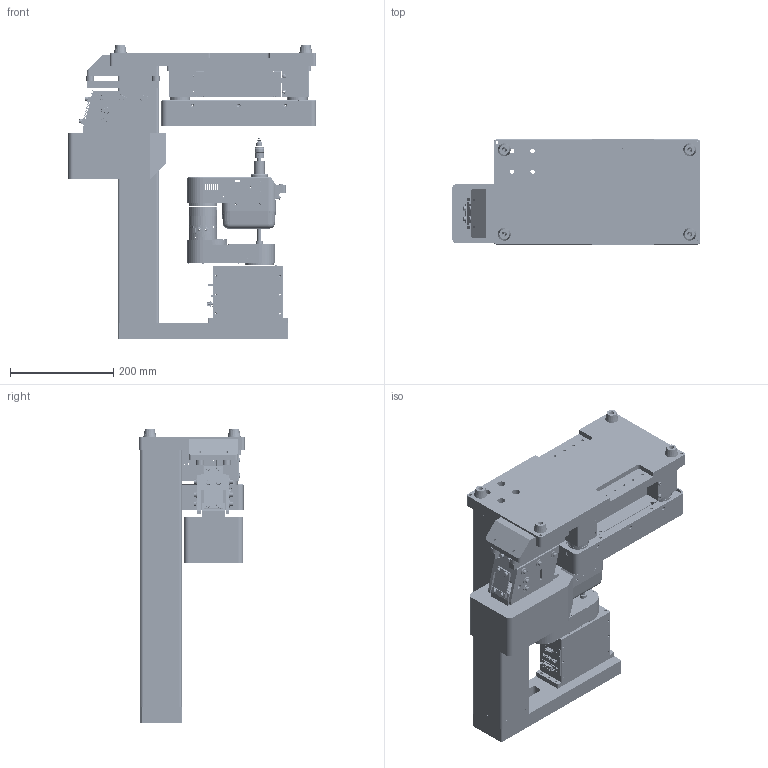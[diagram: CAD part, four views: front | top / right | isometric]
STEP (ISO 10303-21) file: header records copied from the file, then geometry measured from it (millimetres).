
FILE_DESCRIPTION (( 'STEP AP214' ), '1' );
FILE_NAME ('倒装模模型（不含特征）.STEP', '2026-06-11T15:01:37', ( '' ), ( '' ), 'SwSTEP 2.0', 'SolidWorks 2024', '' );
FILE_SCHEMA (( 'AUTOMOTIVE_DESIGN' ));
Length unit declared in the file: millimetre
Products named in the file (1): 倒装模模型（不含特征）
Bounding box: 481.59 x 204 x 570 mm (x, y, z)
Surface area: 1370234.9 mm2 (no closed solid volume)
Topology: 0 solids, 631 shells, 2566 faces, 13236 edges, 11185 vertices
Faces by surface type: plane 1250, cylinder 814, cone 268, torus 137, sphere 52, bspline 45
Entity records: 139858 total; most frequent: CARTESIAN_POINT 37938, DIRECTION 20869, ORIENTED_EDGE 16789, EDGE_CURVE 13208, VERTEX_POINT 11176, AXIS2_PLACEMENT_3D 7100, LINE 6669, VECTOR 6669
